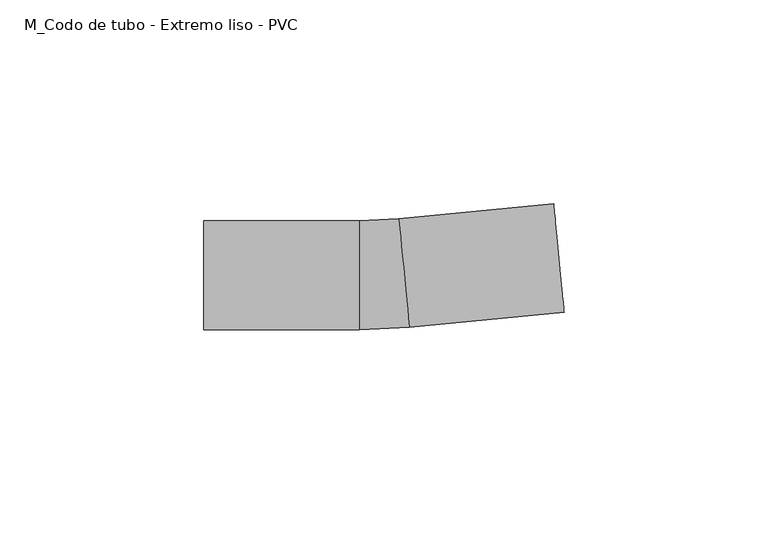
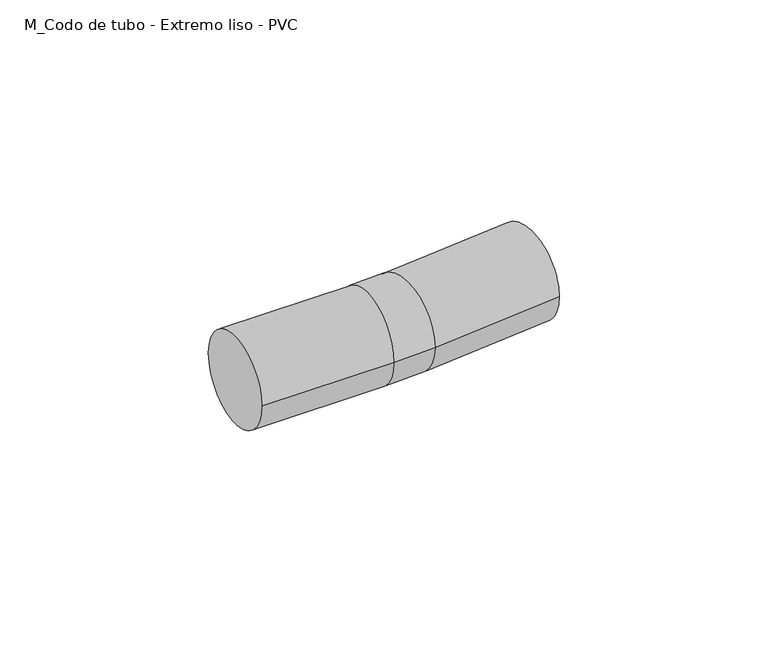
"""IFC4 building model written with IfcOpenShell, lengths in millimetres: cable carrier fitting geometry, M_Codo de tubo - Extremo liso - PVC : CODO ILUMINACION."""

from ifc_helpers import new_model, si_unit, point, frame, origin, place, context, project, spatial, circle_curve, ellipse_curve, trimmed, source, transform, mapped, element, save
from ifc_brep_helpers import plane_surface, cylinder_surface, revolved_surface, advanced_brep


def m_codo_de_tubo_extremo_liso_pvc_0afefef4(model_context):
    return source(origin(), model_context, "Body", "AdvancedBrep", [
        advanced_brep(
        [(-43.5844817, -13.335, 0.0), (-43.5844817, 13.335, 0.0), (-5.4844817, -13.335, 0.0), (-5.4844817, 13.335, 0.0), (4.1825121, 13.7988535, 0.0), (6.7360577, -12.7486192, 0.0), (44.6610186, -9.100697, 0.0), (42.1074731, 17.4467757, 0.0)],
        [
            (0, 1, circle_curve(frame((-43.5844817, 0.0, 0.0), z_axis=(-1.0, 0.0, 0.0), x_axis=(0.0, 1.0, 0.0)), 13.335)),
            (1, 0, circle_curve(frame((-43.5844817, 0.0, 0.0), z_axis=(-1.0, 0.0, 0.0), x_axis=(0.0, 1.0, 0.0)), 13.335)),
            (0, 2),
            (2, 3, circle_curve(frame((-5.4844817, 0.0, 0.0), z_axis=(-1.0, 0.0, 0.0), x_axis=(0.0, 1.0, 0.0)), 13.335)),
            (3, 1),
            (3, 2, circle_curve(frame((-5.4844817, 0.0, 0.0), z_axis=(-1.0, 0.0, 0.0), x_axis=(0.0, 1.0, 0.0)), 13.335)),
            (4, 3, circle_curve(frame((-5.4844817, 114.3, 0.0), z_axis=(0.0, 0.0, -1.0), x_axis=(0.0, -1.0, 0.0)), 100.965)),
            (2, 5, circle_curve(frame((-5.4844817, 114.3, 0.0), z_axis=(0.0, 0.0, 1.0), x_axis=(0.0, -1.0, 0.0)), 127.635)),
            (5, 4, circle_curve(frame((5.4592849, 0.5251171, 0.0), z_axis=(-0.9954057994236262, -0.09574598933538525, 0.0), x_axis=(-0.09574598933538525, 0.9954057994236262, 0.0)), 13.335)),
            (4, 5, circle_curve(frame((5.4592849, 0.5251171, 0.0), z_axis=(-0.9954057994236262, -0.09574598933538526, 0.0), x_axis=(-0.09574598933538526, 0.9954057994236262, 0.0)), 13.335)),
            (6, 7, circle_curve(frame((43.3842458, 4.1730393, 0.0), z_axis=(0.9954057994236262, 0.0957459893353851, 0.0), x_axis=(-0.0957459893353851, 0.9954057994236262, 0.0)), 13.335)),
            (7, 6, circle_curve(frame((43.3842458, 4.1730393, 0.0), z_axis=(0.9954057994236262, 0.0957459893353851, 0.0), x_axis=(-0.0957459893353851, 0.9954057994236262, 0.0)), 13.335)),
            (5, 6),
            (7, 4),
        ],
        [
            plane_surface(frame((-43.5844817, 0.0, 0.0), z_axis=(-1.0, 0.0, 0.0), x_axis=(0.0, 0.0, 1.0))),
            cylinder_surface(frame((-43.5844817, 0.0, 0.0), z_axis=(-1.0, 0.0, 0.0), x_axis=(0.0, 1.0, 0.0)), 13.335),
            revolved_surface(trimmed(ellipse_curve(frame((-5.4844817, 0.0, 0.0), z_axis=(-1.0, 0.0, 0.0), x_axis=(0.0, 1.0, 0.0)), 13.335, 13.335), [point((-5.4844817, -13.335, 0.0))], [point((-5.4844817, 13.335, 0.0))], True, "CARTESIAN"), (-5.4844817, 114.3, 0.0), (0.0, 0.0, 1.0)),
            revolved_surface(trimmed(ellipse_curve(frame((-5.4844817, 0.0, 0.0), z_axis=(-1.0, 0.0, 0.0), x_axis=(0.0, 1.0, 0.0)), 13.335, 13.335), [point((-5.4844817, 13.335, 0.0))], [point((-5.4844817, -13.335, 0.0))], True, "CARTESIAN"), (-5.4844817, 114.3, 0.0), (0.0, 0.0, 1.0)),
            plane_surface(frame((43.3842458, 4.1730393, 0.0), z_axis=(0.9954057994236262, 0.09574598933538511, 0.0), x_axis=(0.0, 0.0, 1.0))),
            cylinder_surface(frame((5.4592849, 0.5251171, 0.0), z_axis=(-0.9954057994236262, -0.0957459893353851, 0.0), x_axis=(-0.0957459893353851, 0.9954057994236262, 0.0)), 13.335),
        ],
        [
            (0, [[1, 2]]),
            (1, [[-1, 3, 4, 5]]),
            (1, [[-2, -5, 6, -3]]),
            (2, [[7, -4, 8, 9]]),
            (3, [[-8, -6, -7, 10]]),
            (4, [[11, 12]]),
            (5, [[-9, 13, -12, 14]]),
            (5, [[-10, -14, -11, -13]]),
        ],
    ),
    ])


if __name__ == "__main__":
    model = new_model("IFC4")
    model_context = context("Model", 3, world=origin())
    ifc_project = project(units=[si_unit("LENGTHUNIT", "METRE", prefix="MILLI")], contexts=[model_context])
    site = spatial("IfcSite", under=ifc_project)
    building = spatial("IfcBuilding", under=site)
    placement = place(None, origin())
    m_codo_de_tubo_extremo_liso_pvc_shape = m_codo_de_tubo_extremo_liso_pvc_0afefef4(model_context)
    element("IfcCableCarrierFitting", 1, ObjectType="M_Codo de tubo - Extremo liso - PVC : CODO ILUMINACION", at=placement, inside=building, context=model_context, shape_type="MappedRepresentation", body=[
        mapped(m_codo_de_tubo_extremo_liso_pvc_shape, transform((0.0, 0.0, 0.0), x_axis=(1.0, 0.0, 0.0), y_axis=(0.0, 1.0, 0.0), z_axis=(0.0, 0.0, 1.0))),
    ])
    save(model, "model.ifc")
